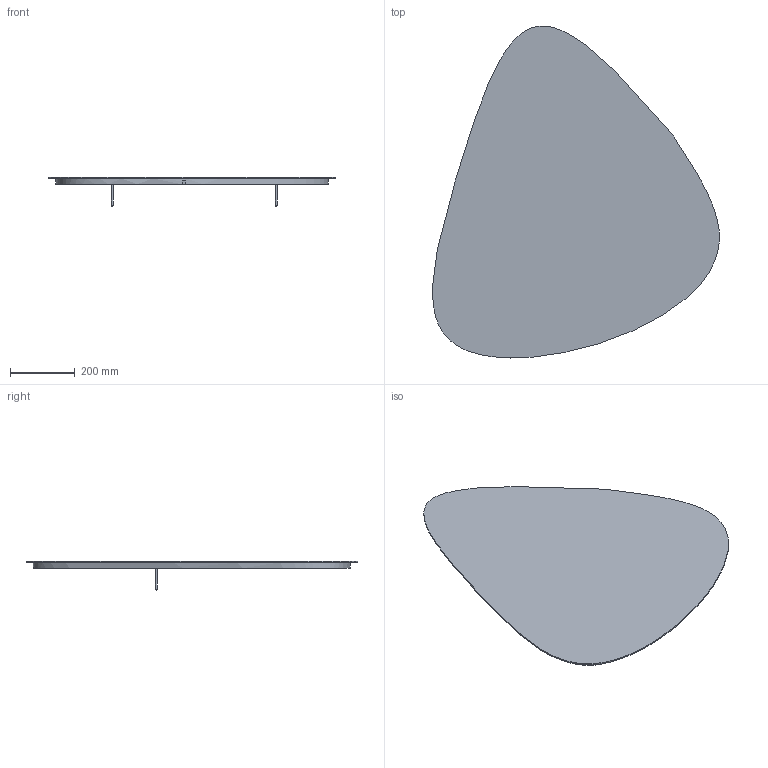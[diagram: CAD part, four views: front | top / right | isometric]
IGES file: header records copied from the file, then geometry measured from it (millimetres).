
Global section: file name: 3D Dosyası,; native system: Autodesk Inventor 2024; preprocessor: unknown; author: pc19; date: 20250710.114100; units: millimetre
Bounding box: 886.47 x 1025.59 x 92 mm (x, y, z)
Volume: 10419610.1 mm3; surface area: 2258233.1 mm2
Topology: 6 solids, 6 shells, 215 faces, 574 edges, 366 vertices
Faces by surface type: bspline 215
